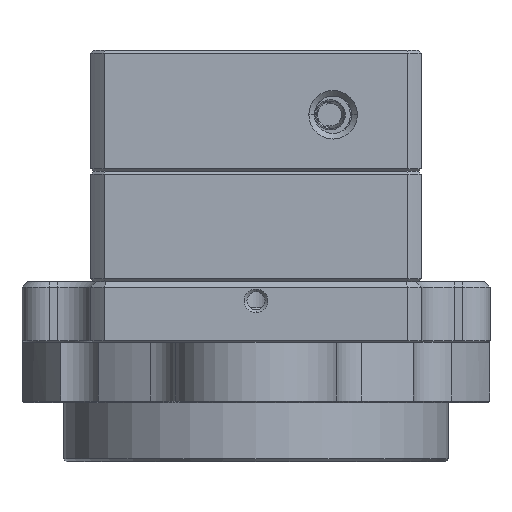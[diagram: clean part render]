
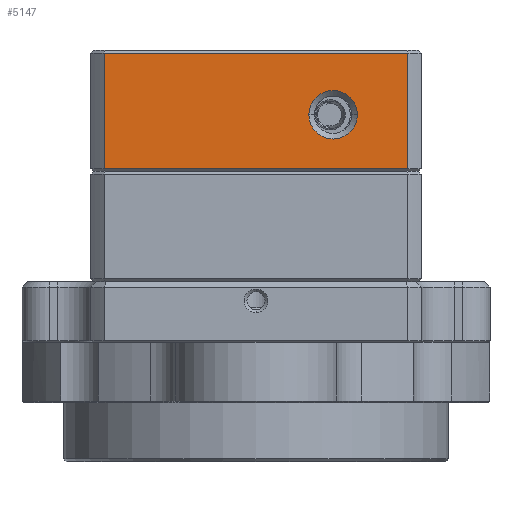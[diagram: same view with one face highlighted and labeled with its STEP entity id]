
A CAD part, front view. The second image highlights one B-rep face of the part: STEP entity #5147.
In plain terms, the highlighted planar face has unit normal (0, -1, 0).
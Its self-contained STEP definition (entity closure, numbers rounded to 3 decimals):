
#4640 = VERTEX_POINT ( 'NONE', #14508 ) ;
#4641 = VERTEX_POINT ( 'NONE', #14465 ) ;
#4651 = VERTEX_POINT ( 'NONE', #14499 ) ;
#4676 = VERTEX_POINT ( 'NONE', #14569 ) ;
#4686 = VERTEX_POINT ( 'NONE', #14554 ) ;
#4720 = VERTEX_POINT ( 'NONE', #14521 ) ;
#5147 = ADVANCED_FACE ( 'NONE', ( #11279, #11255 ), #15316, .T. ) ;
#7445 = EDGE_CURVE ( 'NONE', #4640, #4676, #11727, .T. ) ;
#7621 = EDGE_CURVE ( 'NONE', #4651, #4641, #11898, .T. ) ;
#7668 = EDGE_CURVE ( 'NONE', #4641, #4651, #11980, .T. ) ;
#7679 = EDGE_CURVE ( 'NONE', #4686, #4640, #11979, .T. ) ;
#7740 = EDGE_CURVE ( 'NONE', #4720, #4686, #12051, .T. ) ;
#7757 = EDGE_CURVE ( 'NONE', #4676, #4720, #12015, .T. ) ;
#8325 = EDGE_LOOP ( 'NONE', ( #9266, #9239 ) ) ;
#8338 = EDGE_LOOP ( 'NONE', ( #9190, #9246, #9204, #9216 ) ) ;
#9190 = ORIENTED_EDGE ( 'NONE', *, *, #7757, .T. ) ;
#9204 = ORIENTED_EDGE ( 'NONE', *, *, #7679, .T. ) ;
#9216 = ORIENTED_EDGE ( 'NONE', *, *, #7445, .T. ) ;
#9239 = ORIENTED_EDGE ( 'NONE', *, *, #7668, .T. ) ;
#9246 = ORIENTED_EDGE ( 'NONE', *, *, #7740, .T. ) ;
#9266 = ORIENTED_EDGE ( 'NONE', *, *, #7621, .T. ) ;
#10512 = AXIS2_PLACEMENT_3D ( 'NONE', #15298, #15282, #15309 ) ;
#10718 = AXIS2_PLACEMENT_3D ( 'NONE', #13148, #13119, #13127 ) ;
#10789 = AXIS2_PLACEMENT_3D ( 'NONE', #13299, #13304, #13307 ) ;
#11255 = FACE_OUTER_BOUND ( 'NONE', #8338, .T. ) ;
#11279 = FACE_BOUND ( 'NONE', #8325, .T. ) ;
#11727 = LINE ( 'NONE', #12542, #11730 ) ;
#11730 = VECTOR ( 'NONE', #12527, 1000. ) ;
#11898 = CIRCLE ( 'NONE', #10718, 4.4 ) ;
#11979 = LINE ( 'NONE', #13293, #11998 ) ;
#11980 = CIRCLE ( 'NONE', #10789, 4.4 ) ;
#11998 = VECTOR ( 'NONE', #13312, 1000. ) ;
#12009 = VECTOR ( 'NONE', #15228, 1000. ) ;
#12015 = LINE ( 'NONE', #15428, #12038 ) ;
#12038 = VECTOR ( 'NONE', #15415, 1000. ) ;
#12051 = LINE ( 'NONE', #15215, #12009 ) ;
#12527 = DIRECTION ( 'NONE',  ( -1., 0., 0. ) ) ;
#12542 = CARTESIAN_POINT ( 'NONE',  ( -26.834, -74., 41.5 ) ) ;
#13119 = DIRECTION ( 'NONE',  ( 0., 1., 0. ) ) ;
#13127 = DIRECTION ( 'NONE',  ( 1., 0., 0. ) ) ;
#13148 = CARTESIAN_POINT ( 'NONE',  ( 14., -74., 30.3 ) ) ;
#13293 = CARTESIAN_POINT ( 'NONE',  ( 27.578, -74., 20. ) ) ;
#13299 = CARTESIAN_POINT ( 'NONE',  ( 14., -74., 30.3 ) ) ;
#13304 = DIRECTION ( 'NONE',  ( 0., 1., 0. ) ) ;
#13307 = DIRECTION ( 'NONE',  ( 1., 0., 0. ) ) ;
#13312 = DIRECTION ( 'NONE',  ( 0., 0., 1. ) ) ;
#14465 = CARTESIAN_POINT ( 'NONE',  ( 9.6, -74., 30.3 ) ) ;
#14499 = CARTESIAN_POINT ( 'NONE',  ( 18.4, -74., 30.3 ) ) ;
#14508 = CARTESIAN_POINT ( 'NONE',  ( 27.578, -74., 41.5 ) ) ;
#14521 = CARTESIAN_POINT ( 'NONE',  ( -27.578, -74., 20.5 ) ) ;
#14554 = CARTESIAN_POINT ( 'NONE',  ( 27.578, -74., 20.5 ) ) ;
#14569 = CARTESIAN_POINT ( 'NONE',  ( -27.578, -74., 41.5 ) ) ;
#15215 = CARTESIAN_POINT ( 'NONE',  ( 26.834, -74., 20.5 ) ) ;
#15228 = DIRECTION ( 'NONE',  ( 1., 0., 0. ) ) ;
#15282 = DIRECTION ( 'NONE',  ( 0., -1., 0. ) ) ;
#15298 = CARTESIAN_POINT ( 'NONE',  ( -30., -74., 20. ) ) ;
#15309 = DIRECTION ( 'NONE',  ( 1., 0., 0. ) ) ;
#15316 = PLANE ( 'NONE',  #10512 ) ;
#15415 = DIRECTION ( 'NONE',  ( 0., 0., -1. ) ) ;
#15428 = CARTESIAN_POINT ( 'NONE',  ( -27.578, -74., 20. ) ) ;
